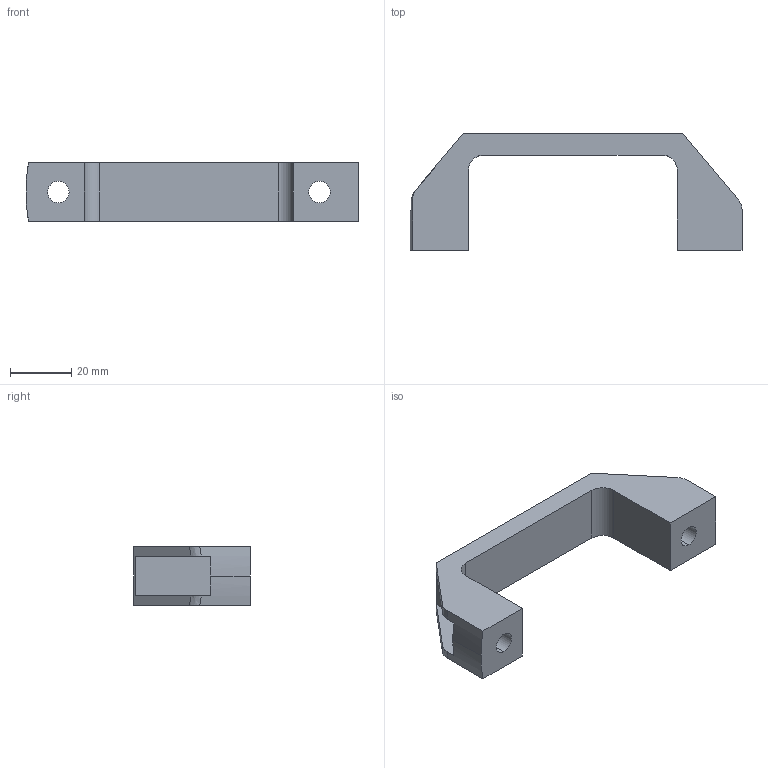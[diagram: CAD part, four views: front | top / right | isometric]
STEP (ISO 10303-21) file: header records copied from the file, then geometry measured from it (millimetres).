
FILE_DESCRIPTION (( 'STEP AP203' ), '1' );
FILE_NAME ('LIMA-HANDLE-S.STEP', '2018-10-11T05:18:29', ( '' ), ( '' ), 'SwSTEP 2.0', 'SolidWorks 2017', '' );
FILE_SCHEMA (( 'CONFIG_CONTROL_DESIGN' ));
Length unit declared in the file: millimetre
Products named in the file (1): LIMA-HANDLE-S
Bounding box: 108 x 38 x 19 mm (x, y, z)
Volume: 22338.9 mm3; surface area: 11223.4 mm2
Topology: 1 solids, 1 shells, 37 faces, 99 edges, 66 vertices
Faces by surface type: plane 21, cylinder 14, bspline 2
Entity records: 1276 total; most frequent: CARTESIAN_POINT 261, ORIENTED_EDGE 198, DIRECTION 191, EDGE_CURVE 99, VERTEX_POINT 66, AXIS2_PLACEMENT_3D 64, LINE 63, VECTOR 63
